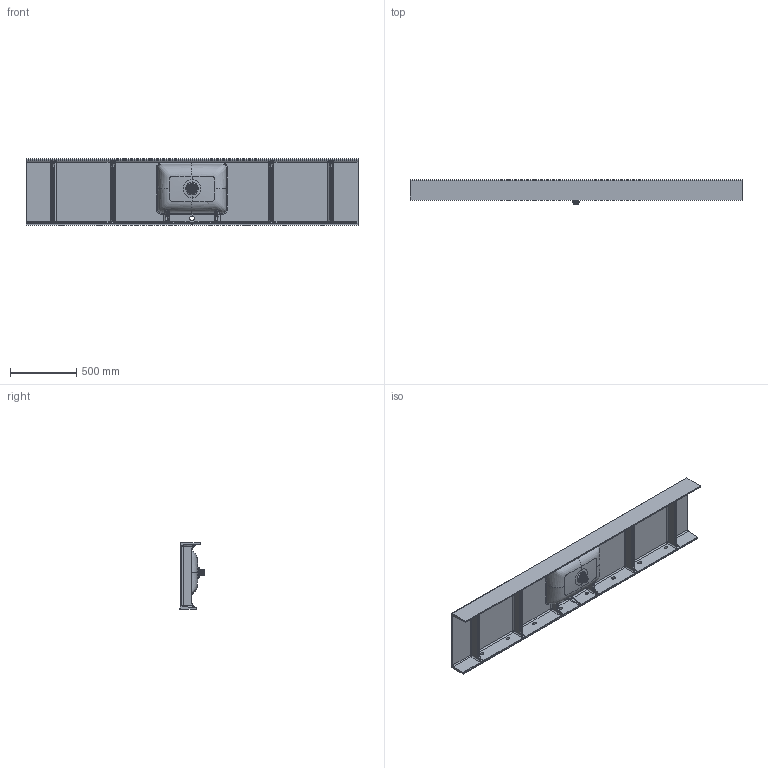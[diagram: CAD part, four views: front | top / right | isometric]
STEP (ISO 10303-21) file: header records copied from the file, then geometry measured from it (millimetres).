
FILE_DESCRIPTION (( 'STEP AP203' ), '1' );
FILE_NAME ('MESA50-P.STEP', '2021-09-10T10:25:07', ( '' ), ( '' ), 'SwSTEP 2.0', 'SolidWorks 2020', '' );
FILE_SCHEMA (( 'CONFIG_CONTROL_DESIGN' ));
Products named in the file (1): MESA50-P
Bounding box: 2500 x 186.26 x 500 mm (x, y, z)
Volume: 29217929.7 mm3; surface area: 4290392.3 mm2
Topology: 8 solids, 8 shells, 596 faces, 1575 edges, 970 vertices
Faces by surface type: cylinder 243, bspline 127, plane 118, torus 40, sphere 34, cone 34
Entity records: 110347 total; most frequent: CARTESIAN_POINT 96874, ORIENTED_EDGE 3114, DIRECTION 2510, EDGE_CURVE 1557, AXIS2_PLACEMENT_3D 983, VERTEX_POINT 970, EDGE_LOOP 645, ADVANCED_FACE 596
